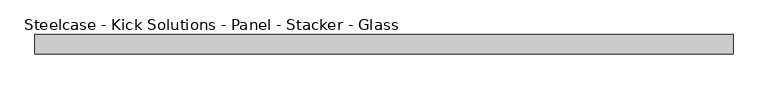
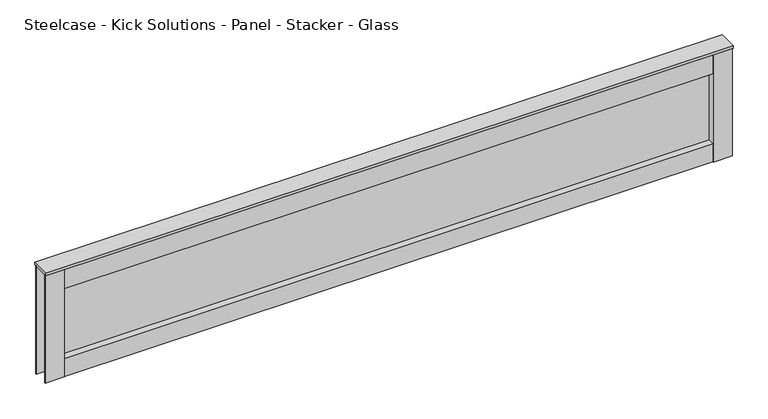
"""IFC4 building model written with IfcOpenShell, lengths in millimetres: furniture geometry, Steelcase - Kick Solutions - Panel - Stacker - Glass : 12H x 72W."""

from ifc_helpers import new_model, si_unit, frame, origin, place, context, project, spatial, polyline, outline, extrude, source, transform, mapped, element, save


def steelcase_kick_solutions_panel_stacker_glass_f4d70502(model_context):
    return source(origin(), model_context, "Body", "SweptSolid", [
        extrude(outline(polyline([(1778.0006661, -5.08), (1778.0006661, -45.7200015), (50.8006646, -45.7200015), (50.8006646, -5.08), (1778.0006661, -5.08)])), frame((0.0, 0.0, 1066.8), z_axis=(0.0, 0.0, 1.0), x_axis=(1.0, 0.0, 0.0)), (0.0, 0.0, 1.0), 50.6830951),
        extrude(outline(polyline([(1778.0006661, -5.08), (1778.0006661, -45.7200015), (50.8006646, -45.7200015), (50.8006646, -5.08), (1778.0006661, -5.08)])), frame((0.0, 0.0, 1314.45), z_axis=(0.0, 0.0, 1.0), x_axis=(1.0, 0.0, 0.0)), (0.0, 0.0, 1.0), 57.15),
        extrude(outline(polyline([(50.8006646, -3.1743148), (50.8006646, -47.6243142), (0.0, -47.6243142), (0.0, -45.7200015), (47.7526646, -45.7200015), (47.7526646, -5.08), (0.0, -5.08), (0.0, -3.1743148), (50.8006646, -3.1743148)])), frame((0.0, 0.0, 1066.8), z_axis=(0.0, 0.0, 1.0), x_axis=(1.0, 0.0, 0.0)), (0.0, 0.0, 1.0), 304.8),
        extrude(outline(polyline([(1778.0006661, -3.1743148), (1828.8, -3.1743148), (1828.8, -5.08), (1781.0486661, -5.08), (1781.0486661, -45.7200015), (1828.8, -45.7200015), (1828.8, -47.6243142), (1778.0006661, -47.6243142), (1778.0006661, -3.1743148)])), frame((0.0, 0.0, 1066.8), z_axis=(0.0, 0.0, 1.0), x_axis=(1.0, 0.0, 0.0)), (0.0, 0.0, 1.0), 304.8),
        extrude(outline(polyline([(1778.0006661, -28.422537), (50.8006646, -28.422537), (50.8006646, -25.4), (1778.0006661, -25.4), (1778.0006661, -28.422537)])), frame((0.0, 0.0, 1117.4830951), z_axis=(0.0, 0.0, 1.0), x_axis=(1.0, 0.0, 0.0)), (0.0, 0.0, 1.0), 196.9669049),
        extrude(outline(polyline([(1828.8, 0.0), (1828.8, -50.8000015), (0.0, -50.8000015), (0.0, 0.0), (1828.8, 0.0)])), frame((0.0, 0.0, 1371.6), z_axis=(0.0, 0.0, 1.0), x_axis=(1.0, 0.0, 0.0)), (0.0, 0.0, 1.0), 6.35),
    ])


if __name__ == "__main__":
    model = new_model("IFC4")
    model_context = context("Model", 3, world=origin())
    ifc_project = project(units=[si_unit("LENGTHUNIT", "METRE", prefix="MILLI")], contexts=[model_context])
    site = spatial("IfcSite", under=ifc_project)
    building = spatial("IfcBuilding", under=site)
    placement = place(None, origin())
    steelcase_kick_solutions_panel_stacker_glass_shape = steelcase_kick_solutions_panel_stacker_glass_f4d70502(model_context)
    element("IfcFurniture", 1, ObjectType="Steelcase - Kick Solutions - Panel - Stacker - Glass : 12H x 72W", at=placement, inside=building, context=model_context, shape_type="MappedRepresentation", body=[
        mapped(steelcase_kick_solutions_panel_stacker_glass_shape, transform((0.0, 0.0, 0.0), x_axis=(1.0, 0.0, 0.0), y_axis=(0.0, 1.0, 0.0), z_axis=(0.0, 0.0, 1.0))),
    ])
    save(model, "model.ifc")
